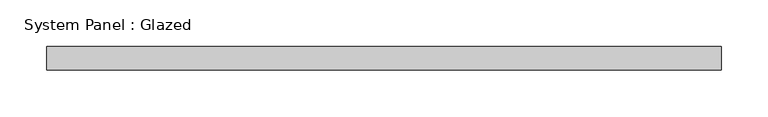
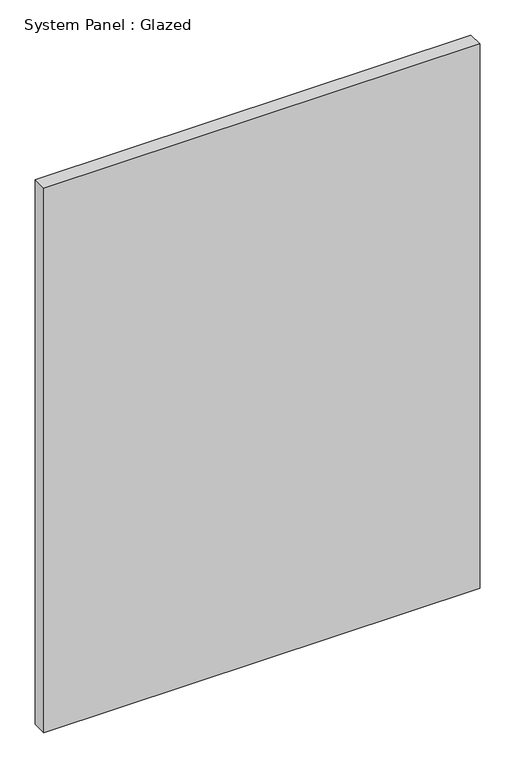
"""IFC4 building model written with IfcOpenShell, lengths in millimetres: plate geometry, System Panel : Glazed."""

from ifc_helpers import new_model, si_unit, origin, origin_with_axes, place, context, project, spatial, polyline, outline, extrude, source, transform, mapped, element, save


def system_panel_glazed_a2a6a1f5(model_context):
    return source(origin(), model_context, "Body", "SweptSolid", [
        extrude(outline(polyline([(360.0, 24.5), (-360.0, 24.5), (-360.0, 49.5), (360.0, 49.5), (360.0, 24.5)])), origin_with_axes(), (0.0, 0.0, 1.0), 950.0),
    ])


if __name__ == "__main__":
    model = new_model("IFC4")
    model_context = context("Model", 3, world=origin())
    ifc_project = project(units=[si_unit("LENGTHUNIT", "METRE", prefix="MILLI")], contexts=[model_context])
    site = spatial("IfcSite", under=ifc_project)
    building = spatial("IfcBuilding", under=site)
    placement = place(None, origin())
    system_panel_glazed_shape = system_panel_glazed_a2a6a1f5(model_context)
    element("IfcPlate", 1, ObjectType="System Panel : Glazed", at=placement, inside=building, context=model_context, shape_type="MappedRepresentation", body=[
        mapped(system_panel_glazed_shape, transform((0.0, 0.0, 0.0), x_axis=(1.0, 0.0, 0.0), y_axis=(0.0, 1.0, 0.0), z_axis=(0.0, 0.0, 1.0))),
    ])
    save(model, "model.ifc")
